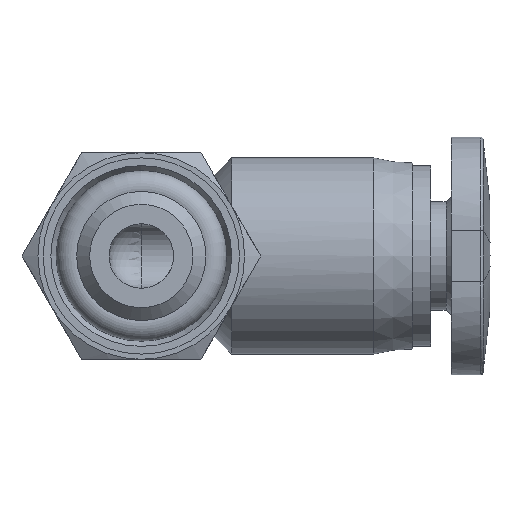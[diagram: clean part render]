
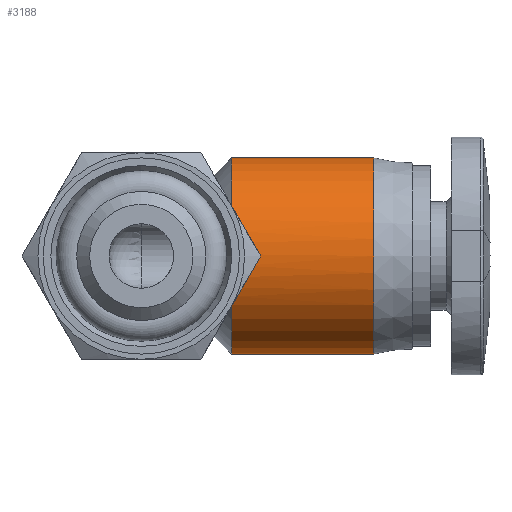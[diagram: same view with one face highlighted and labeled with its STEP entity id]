
A CAD part, front view. The second image highlights one B-rep face of the part: STEP entity #3188.
In plain terms, the highlighted cylindrical face has radius 3.8 mm (diameter 7.6 mm), a full revolution.
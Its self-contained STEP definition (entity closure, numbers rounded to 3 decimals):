
#110=CARTESIAN_POINT('',(3.5,8.025,0.75));
#111=VERTEX_POINT('',#110);
#295=CARTESIAN_POINT('',(3.5,8.025,-0.75));
#296=VERTEX_POINT('',#295);
#324=CARTESIAN_POINT('',(3.5,4.3,0.0));
#325=DIRECTION('',(1.0,0.0,0.0));
#326=DIRECTION('',(0.0,1.0,0.0));
#327=AXIS2_PLACEMENT_3D('',#324,#325,#326);
#328=CIRCLE('',#327,3.8);
#329=EDGE_CURVE('',#296,#111,#328,.T.);
#1446=CARTESIAN_POINT('',(3.5,1.01,-1.901));
#1447=VERTEX_POINT('',#1446);
#1448=CARTESIAN_POINT('',(3.5,4.3,0.0));
#1449=DIRECTION('',(1.0,0.0,0.0));
#1450=DIRECTION('',(0.0,1.0,0.0));
#1451=AXIS2_PLACEMENT_3D('',#1448,#1449,#1450);
#1452=CIRCLE('',#1451,3.8);
#1453=EDGE_CURVE('',#1447,#296,#1452,.T.);
#1540=CARTESIAN_POINT('',(3.528,1.,-1.884));
#1541=VERTEX_POINT('',#1540);
#1542=CARTESIAN_POINT('',(3.528,1.,-1.884));
#1543=CARTESIAN_POINT('',(3.519,1.003,-1.89));
#1544=CARTESIAN_POINT('',(3.51,1.007,-1.896));
#1545=CARTESIAN_POINT('',(3.5,1.01,-1.901));
#1546=B_SPLINE_CURVE_WITH_KNOTS('',3,(#1542,#1543,#1544,#1545),.UNSPECIFIED.,.F.,.U.,(4,4),(2.015,2.018),.UNSPECIFIED.);
#1547=EDGE_CURVE('',#1541,#1447,#1546,.T.);
#1565=CARTESIAN_POINT('',(3.528,1.,1.884));
#1566=VERTEX_POINT('',#1565);
#1574=CARTESIAN_POINT('',(3.5,1.01,1.901));
#1575=VERTEX_POINT('',#1574);
#1576=CARTESIAN_POINT('',(3.5,1.01,1.901));
#1577=CARTESIAN_POINT('',(3.51,1.007,1.896));
#1578=CARTESIAN_POINT('',(3.519,1.003,1.89));
#1579=CARTESIAN_POINT('',(3.528,1.,1.884));
#1580=B_SPLINE_CURVE_WITH_KNOTS('',3,(#1576,#1577,#1578,#1579),.UNSPECIFIED.,.F.,.U.,(4,4),(1.535,1.538),.UNSPECIFIED.);
#1581=EDGE_CURVE('',#1575,#1566,#1580,.T.);
#3139=CARTESIAN_POINT('',(3.528,1.,1.884));
#3140=CARTESIAN_POINT('',(3.724,0.791,1.519));
#3141=CARTESIAN_POINT('',(3.872,0.635,1.099));
#3142=CARTESIAN_POINT('',(3.945,0.558,0.661));
#3143=CARTESIAN_POINT('',(4.026,0.473,0.179));
#3144=CARTESIAN_POINT('',(4.017,0.482,-0.319));
#3145=CARTESIAN_POINT('',(3.92,0.585,-0.797));
#3146=CARTESIAN_POINT('',(3.841,0.668,-1.186));
#3147=CARTESIAN_POINT('',(3.703,0.813,-1.557));
#3148=CARTESIAN_POINT('',(3.528,1.,-1.884));
#3149=B_SPLINE_CURVE_WITH_KNOTS('',3,(#3139,#3140,#3141,#3142,#3143,#3144,#3145,#3146,#3147,#3148),.UNSPECIFIED.,.F.,.U.,(4,3,3,4),(1.792,1.925,2.071,2.189),.UNSPECIFIED.);
#3150=EDGE_CURVE('',#1566,#1541,#3149,.T.);
#3158=CARTESIAN_POINT('',(6.25,4.3,0.0));
#3159=DIRECTION('',(1.0,0.,0.0));
#3160=DIRECTION('',(0.0,1.0,0.0));
#3161=AXIS2_PLACEMENT_3D('',#3158,#3159,#3160);
#3162=CYLINDRICAL_SURFACE('',#3161,3.8);
#3163=ORIENTED_EDGE('',*,*,#1547,.T.);
#3164=ORIENTED_EDGE('',*,*,#1453,.T.);
#3165=ORIENTED_EDGE('',*,*,#329,.T.);
#3166=CARTESIAN_POINT('',(3.5,4.3,0.0));
#3167=DIRECTION('',(1.0,0.0,0.0));
#3168=DIRECTION('',(0.0,1.0,0.0));
#3169=AXIS2_PLACEMENT_3D('',#3166,#3167,#3168);
#3170=CIRCLE('',#3169,3.8);
#3171=EDGE_CURVE('',#111,#1575,#3170,.T.);
#3172=ORIENTED_EDGE('',*,*,#3171,.T.);
#3173=ORIENTED_EDGE('',*,*,#1581,.T.);
#3174=ORIENTED_EDGE('',*,*,#3150,.T.);
#3175=EDGE_LOOP('',(#3163,#3164,#3165,#3172,#3173,#3174));
#3176=FACE_OUTER_BOUND('',#3175,.T.);
#3177=CARTESIAN_POINT('',(9.,8.1,0.0));
#3178=VERTEX_POINT('',#3177);
#3179=CARTESIAN_POINT('',(9.,4.3,0.0));
#3180=DIRECTION('',(1.0,0.0,0.0));
#3181=DIRECTION('',(0.0,1.0,0.0));
#3182=AXIS2_PLACEMENT_3D('',#3179,#3180,#3181);
#3183=CIRCLE('',#3182,3.8);
#3184=EDGE_CURVE('',#3178,#3178,#3183,.T.);
#3185=ORIENTED_EDGE('',*,*,#3184,.F.);
#3186=EDGE_LOOP('',(#3185));
#3187=FACE_BOUND('',#3186,.T.);
#3188=ADVANCED_FACE('',(#3176,#3187),#3162,.T.);
